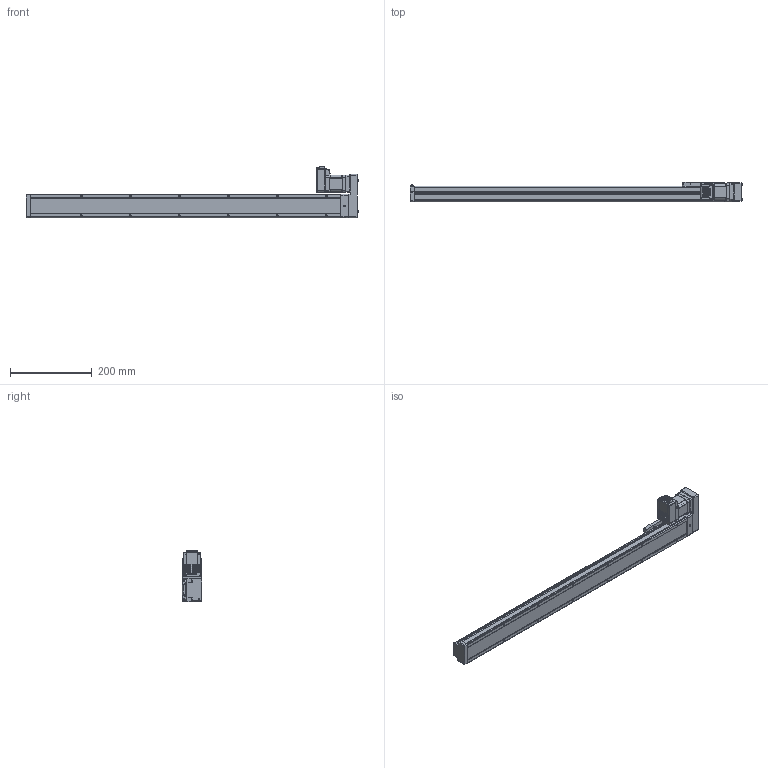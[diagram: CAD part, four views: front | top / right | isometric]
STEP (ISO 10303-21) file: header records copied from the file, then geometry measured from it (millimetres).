
FILE_DESCRIPTION (( 'STEP AP214' ), '1' );
FILE_NAME ('LEFS3(+)-25LNM1□-650-17L.STEP', '2023-05-31T04:59:20', ( '' ), ( '' ), 'SwSTEP 2.0', 'SolidWorks 2019', '' );
FILE_SCHEMA (( 'AUTOMOTIVE_DESIGN' ));
Length unit declared in the file: millimetre
Products named in the file (5): LEFS3(+)-25R(L)NM1仩_MOTOR Flange; LEFS3(+)-25R(L)NM1仩_BODY_650; LEFS3(+)-25NM1_TABLE; LEFS3(+)-25LNM1□-650-17L; CM3(+)-17L50A
Assembly tree (4 placements, depth 2):
  LEFS3(+)-25LNM1□-650-17L
    LEFS3(+)-25R(L)NM1仩_BODY_650
    LEFS3(+)-25NM1_TABLE
    LEFS3(+)-25R(L)NM1仩_MOTOR Flange
    CM3(+)-17L50A
Bounding box: 812.9 x 48 x 125.85 mm (x, y, z)
Volume: 1763939 mm3; surface area: 222793.4 mm2
Topology: 5 solids, 5 shells, 1027 faces, 2644 edges, 1668 vertices
Faces by surface type: plane 529, cylinder 326, cone 83, torus 39, bspline 29, sphere 21
Entity records: 41957 total; most frequent: CARTESIAN_POINT 7530, ORIENTED_EDGE 5226, DIRECTION 5056, EDGE_CURVE 2613, AXIS2_PLACEMENT_3D 1706, VERTEX_POINT 1668, VECTOR 1644, LINE 1644
